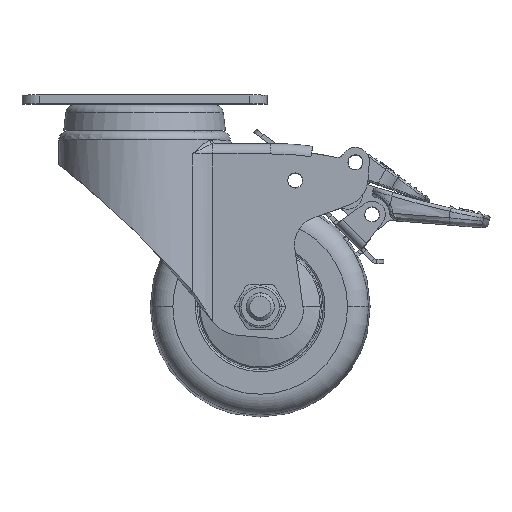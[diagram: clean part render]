
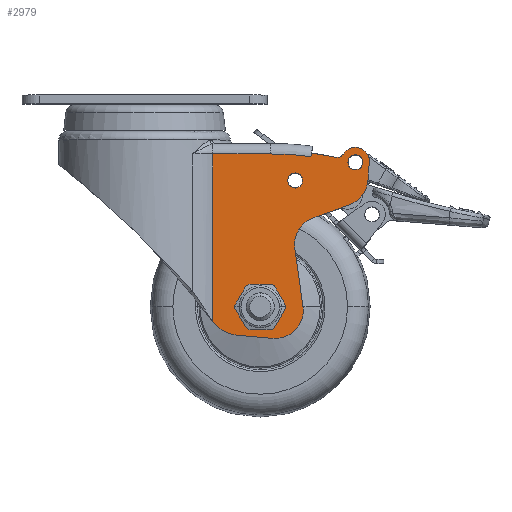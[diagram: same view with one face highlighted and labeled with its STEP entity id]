
A CAD part, top view. The second image highlights one B-rep face of the part: STEP entity #2979.
In plain terms, the highlighted planar face has unit normal (0, 0, 1).
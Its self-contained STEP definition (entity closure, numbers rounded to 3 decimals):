
#683=CARTESIAN_POINT('',(27.413,-48.325,18.5));
#684=DIRECTION('',(0.,0.,1.));
#685=DIRECTION('',(-0.796,-0.606,0.));
#686=AXIS2_PLACEMENT_3D('',#683,#684,#685);
#981=CARTESIAN_POINT('',(-222.847,-238.829,18.5));
#982=DIRECTION('',(0.,0.,-1.));
#983=DIRECTION('',(0.796,0.606,0.));
#984=AXIS2_PLACEMENT_3D('',#981,#982,#983);
#986=DIRECTION('',(0.,-1.,0.));
#987=VECTOR('',#986,47.857);
#988=CARTESIAN_POINT('',(19.438,-6.5,18.5));
#989=LINE('',#988,#987);
#990=DIRECTION('',(-1.,0.,0.));
#991=VECTOR('',#990,16.562);
#992=CARTESIAN_POINT('',(36.,-6.5,18.5));
#993=LINE('',#992,#991);
#994=CARTESIAN_POINT('',(36.,-95.5,18.5));
#995=DIRECTION('',(0.,0.,1.));
#996=DIRECTION('',(0.129,0.992,0.));
#997=AXIS2_PLACEMENT_3D('',#994,#995,#996);
#999=DIRECTION('',(0.208,0.978,0.));
#1000=VECTOR('',#999,1.003);
#1001=CARTESIAN_POINT('',(47.487,-7.244,18.5));
#1002=LINE('',#1001,#1000);
#1003=CARTESIAN_POINT('',(36.,-95.5,18.5));
#1004=DIRECTION('',(0.,0.,1.));
#1005=DIRECTION('',(0.207,0.978,0.));
#1006=AXIS2_PLACEMENT_3D('',#1003,#1004,#1005);
#1008=CARTESIAN_POINT('',(55.084,-5.501,18.5));
#1009=DIRECTION('',(0.,0.,-1.));
#1010=DIRECTION('',(0.853,-0.522,0.));
#1011=AXIS2_PLACEMENT_3D('',#1008,#1009,#1010);
#1013=DIRECTION('',(-0.07,-0.998,0.));
#1014=VECTOR('',#1013,5.136);
#1015=CARTESIAN_POINT('',(64.19,-8.915,18.5));
#1016=LINE('',#1015,#1014);
#1017=CARTESIAN_POINT('',(55.852,-13.48,18.5));
#1018=DIRECTION('',(0.,0.,1.));
#1019=DIRECTION('',(0.342,-0.94,0.));
#1020=AXIS2_PLACEMENT_3D('',#1017,#1018,#1019);
#1022=DIRECTION('',(-0.94,-0.342,0.));
#1023=VECTOR('',#1022,11.148);
#1024=CARTESIAN_POINT('',(58.588,-20.997,18.5));
#1025=LINE('',#1024,#1023);
#1026=CARTESIAN_POINT('',(50.849,-32.328,18.5));
#1027=DIRECTION('',(0.,0.,1.));
#1028=DIRECTION('',(-0.342,0.94,0.));
#1029=AXIS2_PLACEMENT_3D('',#1026,#1027,#1028);
#1031=DIRECTION('',(0.139,-0.99,0.));
#1032=VECTOR('',#1031,16.155);
#1033=CARTESIAN_POINT('',(42.926,-33.441,18.5));
#1034=LINE('',#1033,#1032);
#1035=CARTESIAN_POINT('',(37.372,-51.204,18.5));
#1036=DIRECTION('',(0.,0.,1.));
#1037=DIRECTION('',(-0.087,-0.996,0.));
#1038=AXIS2_PLACEMENT_3D('',#1035,#1036,#1037);
#1040=DIRECTION('',(-0.996,0.087,0.));
#1041=VECTOR('',#1040,10.171);
#1042=CARTESIAN_POINT('',(36.675,-59.173,18.5));
#1043=LINE('',#1042,#1041);
#1044=CARTESIAN_POINT('',(60.247,-8.874,18.5));
#1045=DIRECTION('',(0.,0.,1.));
#1046=DIRECTION('',(1.,0.,0.));
#1047=AXIS2_PLACEMENT_3D('',#1044,#1045,#1046);
#1049=CARTESIAN_POINT('',(60.247,-8.874,18.5));
#1050=DIRECTION('',(0.,0.,1.));
#1051=DIRECTION('',(-1.,0.,0.));
#1052=AXIS2_PLACEMENT_3D('',#1049,#1050,#1051);
#1054=CARTESIAN_POINT('',(43.047,-14.074,18.5));
#1055=DIRECTION('',(0.,0.,1.));
#1056=DIRECTION('',(1.,0.,0.));
#1057=AXIS2_PLACEMENT_3D('',#1054,#1055,#1056);
#1059=CARTESIAN_POINT('',(43.047,-14.074,18.5));
#1060=DIRECTION('',(0.,0.,1.));
#1061=DIRECTION('',(-1.,0.,0.));
#1062=AXIS2_PLACEMENT_3D('',#1059,#1060,#1061);
#1064=CARTESIAN_POINT('',(33.047,-50.174,18.5));
#1065=DIRECTION('',(0.,0.,1.));
#1066=DIRECTION('',(1.,0.,0.));
#1067=AXIS2_PLACEMENT_3D('',#1064,#1065,#1066);
#1069=CARTESIAN_POINT('',(33.047,-50.174,18.5));
#1070=DIRECTION('',(0.,0.,1.));
#1071=DIRECTION('',(-1.,0.,0.));
#1072=AXIS2_PLACEMENT_3D('',#1069,#1070,#1071);
#1138=CARTESIAN_POINT('',(60.2,-8.636,18.5));
#1139=DIRECTION('',(0.,0.,1.));
#1140=DIRECTION('',(0.998,-0.07,0.));
#1141=AXIS2_PLACEMENT_3D('',#1138,#1139,#1140);
#1265=CARTESIAN_POINT('',(56.789,-6.546,18.5));
#1266=CARTESIAN_POINT('',(54.669,-7.458,18.5));
#1267=VERTEX_POINT('',#1265);
#1268=VERTEX_POINT('',#1266);
#1269=CARTESIAN_POINT('',(36.,-6.5,18.5));
#1270=CARTESIAN_POINT('',(19.438,-6.5,18.5));
#1271=VERTEX_POINT('',#1269);
#1272=VERTEX_POINT('',#1270);
#1275=CARTESIAN_POINT('',(47.487,-7.244,18.5));
#1276=VERTEX_POINT('',#1275);
#1279=CARTESIAN_POINT('',(47.695,-6.263,18.5));
#1280=VERTEX_POINT('',#1279);
#1385=CARTESIAN_POINT('',(64.19,-8.915,18.5));
#1386=CARTESIAN_POINT('',(63.832,-14.038,18.5));
#1387=VERTEX_POINT('',#1385);
#1388=VERTEX_POINT('',#1386);
#1389=CARTESIAN_POINT('',(58.588,-20.997,18.5));
#1390=VERTEX_POINT('',#1389);
#1391=CARTESIAN_POINT('',(48.112,-24.81,18.5));
#1392=VERTEX_POINT('',#1391);
#1393=CARTESIAN_POINT('',(42.926,-33.441,18.5));
#1394=VERTEX_POINT('',#1393);
#1395=CARTESIAN_POINT('',(45.175,-49.439,18.5));
#1396=VERTEX_POINT('',#1395);
#1397=CARTESIAN_POINT('',(36.675,-59.173,18.5));
#1398=VERTEX_POINT('',#1397);
#1399=CARTESIAN_POINT('',(26.542,-58.287,18.5));
#1400=VERTEX_POINT('',#1399);
#1439=CARTESIAN_POINT('',(19.438,-54.357,18.5));
#1440=CARTESIAN_POINT('',(19.457,-54.382,18.5));
#1441=VERTEX_POINT('',#1439);
#1442=VERTEX_POINT('',#1440);
#1465=CARTESIAN_POINT('',(62.397,-8.874,18.5));
#1466=CARTESIAN_POINT('',(58.097,-8.874,18.5));
#1467=VERTEX_POINT('',#1465);
#1468=VERTEX_POINT('',#1466);
#1469=CARTESIAN_POINT('',(45.197,-14.074,18.5));
#1470=CARTESIAN_POINT('',(40.897,-14.074,18.5));
#1471=VERTEX_POINT('',#1469);
#1472=VERTEX_POINT('',#1470);
#1473=CARTESIAN_POINT('',(37.047,-50.174,18.5));
#1474=CARTESIAN_POINT('',(29.047,-50.174,18.5));
#1475=VERTEX_POINT('',#1473);
#1476=VERTEX_POINT('',#1474);
#2927=CARTESIAN_POINT('',(0.,0.,18.5));
#2928=DIRECTION('',(0.,0.,1.));
#2929=DIRECTION('',(1.,0.,0.));
#2930=AXIS2_PLACEMENT_3D('',#2927,#2928,#2929);
#2931=PLANE('',#2930);
#2932=ORIENTED_EDGE('',*,*,#2919,.F.);
#2933=ORIENTED_EDGE('',*,*,#2245,.F.);
#2934=ORIENTED_EDGE('',*,*,#2379,.F.);
#2936=ORIENTED_EDGE('',*,*,#2935,.F.);
#2938=ORIENTED_EDGE('',*,*,#2937,.T.);
#2939=ORIENTED_EDGE('',*,*,#2791,.F.);
#2941=ORIENTED_EDGE('',*,*,#2940,.F.);
#2943=ORIENTED_EDGE('',*,*,#2942,.F.);
#2945=ORIENTED_EDGE('',*,*,#2944,.T.);
#2947=ORIENTED_EDGE('',*,*,#2946,.F.);
#2949=ORIENTED_EDGE('',*,*,#2948,.T.);
#2951=ORIENTED_EDGE('',*,*,#2950,.T.);
#2953=ORIENTED_EDGE('',*,*,#2952,.T.);
#2955=ORIENTED_EDGE('',*,*,#2954,.F.);
#2957=ORIENTED_EDGE('',*,*,#2956,.T.);
#2958=ORIENTED_EDGE('',*,*,#2673,.F.);
#2959=EDGE_LOOP('',(#2932,#2933,#2934,#2936,#2938,#2939,#2941,#2943,#2945,#2947,
#2949,#2951,#2953,#2955,#2957,#2958));
#2960=FACE_OUTER_BOUND('',#2959,.F.);
#2962=ORIENTED_EDGE('',*,*,#2961,.T.);
#2964=ORIENTED_EDGE('',*,*,#2963,.T.);
#2965=EDGE_LOOP('',(#2962,#2964));
#2966=FACE_BOUND('',#2965,.F.);
#2968=ORIENTED_EDGE('',*,*,#2967,.T.);
#2970=ORIENTED_EDGE('',*,*,#2969,.T.);
#2971=EDGE_LOOP('',(#2968,#2970));
#2972=FACE_BOUND('',#2971,.F.);
#2974=ORIENTED_EDGE('',*,*,#2973,.T.);
#2976=ORIENTED_EDGE('',*,*,#2975,.T.);
#2977=EDGE_LOOP('',(#2974,#2976));
#2978=FACE_BOUND('',#2977,.F.);
#687=CIRCLE('',#686,10.);
#985=CIRCLE('',#984,304.519);
#998=CIRCLE('',#997,89.);
#1007=CIRCLE('',#1006,90.);
#1012=CIRCLE('',#1011,2.);
#1021=CIRCLE('',#1020,8.);
#1030=CIRCLE('',#1029,8.);
#1039=CIRCLE('',#1038,8.);
#1048=CIRCLE('',#1047,2.15);
#1053=CIRCLE('',#1052,2.15);
#1058=CIRCLE('',#1057,2.15);
#1063=CIRCLE('',#1062,2.15);
#1068=CIRCLE('',#1067,4.);
#1073=CIRCLE('',#1072,4.);
#1142=CIRCLE('',#1141,4.);
#2245=EDGE_CURVE('',#1272,#1441,#989,.T.);
#2379=EDGE_CURVE('',#1271,#1272,#993,.T.);
#2673=EDGE_CURVE('',#1442,#1400,#687,.T.);
#2791=EDGE_CURVE('',#1268,#1280,#1007,.T.);
#2919=EDGE_CURVE('',#1441,#1442,#985,.T.);
#2935=EDGE_CURVE('',#1276,#1271,#998,.T.);
#2937=EDGE_CURVE('',#1276,#1280,#1002,.T.);
#2940=EDGE_CURVE('',#1267,#1268,#1012,.T.);
#2942=EDGE_CURVE('',#1387,#1267,#1142,.T.);
#2944=EDGE_CURVE('',#1387,#1388,#1016,.T.);
#2946=EDGE_CURVE('',#1390,#1388,#1021,.T.);
#2948=EDGE_CURVE('',#1390,#1392,#1025,.T.);
#2950=EDGE_CURVE('',#1392,#1394,#1030,.T.);
#2952=EDGE_CURVE('',#1394,#1396,#1034,.T.);
#2954=EDGE_CURVE('',#1398,#1396,#1039,.T.);
#2956=EDGE_CURVE('',#1398,#1400,#1043,.T.);
#2961=EDGE_CURVE('',#1467,#1468,#1048,.T.);
#2963=EDGE_CURVE('',#1468,#1467,#1053,.T.);
#2967=EDGE_CURVE('',#1471,#1472,#1058,.T.);
#2969=EDGE_CURVE('',#1472,#1471,#1063,.T.);
#2973=EDGE_CURVE('',#1475,#1476,#1068,.T.);
#2975=EDGE_CURVE('',#1476,#1475,#1073,.T.);
#2979=ADVANCED_FACE('',(#2960,#2966,#2972,#2978),#2931,.T.);
